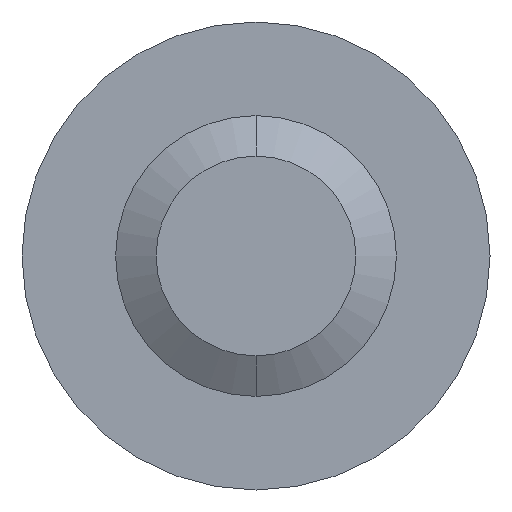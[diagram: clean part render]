
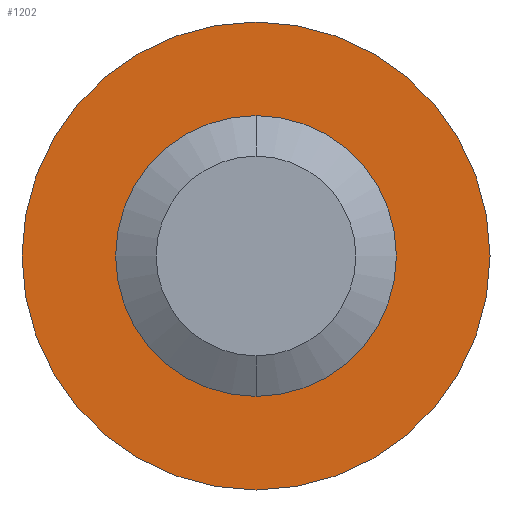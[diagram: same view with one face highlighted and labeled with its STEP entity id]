
A CAD part, front view. The second image highlights one B-rep face of the part: STEP entity #1202.
In plain terms, the highlighted planar face has unit normal (0, -1, 0).
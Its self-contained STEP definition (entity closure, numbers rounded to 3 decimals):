
#15 = CIRCLE ( 'NONE', #2303, 5. ) ;
#20 = EDGE_LOOP ( 'NONE', ( #1969, #241 ) ) ;
#107 = ORIENTED_EDGE ( 'NONE', *, *, #993, .F. ) ;
#122 = DIRECTION ( 'NONE',  ( 0., 0., 1. ) ) ;
#141 = DIRECTION ( 'NONE',  ( 0., 1., 0. ) ) ;
#237 = ORIENTED_EDGE ( 'NONE', *, *, #759, .F. ) ;
#241 = ORIENTED_EDGE ( 'NONE', *, *, #647, .T. ) ;
#286 = CIRCLE ( 'NONE', #2076, 5. ) ;
#480 = FACE_OUTER_BOUND ( 'NONE', #1293, .T. ) ;
#493 = DIRECTION ( 'NONE',  ( 0., 0., 1. ) ) ;
#647 = EDGE_CURVE ( 'NONE', #2728, #2524, #2483, .T. ) ;
#670 = PLANE ( 'NONE',  #1556 ) ;
#727 = CARTESIAN_POINT ( 'NONE',  ( 0., 20., -5. ) ) ;
#759 = EDGE_CURVE ( 'NONE', #2739, #1313, #286, .T. ) ;
#773 = CARTESIAN_POINT ( 'NONE',  ( 0., 20., 0. ) ) ;
#929 = CARTESIAN_POINT ( 'NONE',  ( 0., 20., 0. ) ) ;
#993 = EDGE_CURVE ( 'NONE', #1313, #2739, #15, .T. ) ;
#1008 = AXIS2_PLACEMENT_3D ( 'NONE', #929, #1788, #2642 ) ;
#1198 = CIRCLE ( 'NONE', #1008, 3. ) ;
#1202 = ADVANCED_FACE ( 'NONE', ( #480, #2412 ), #670, .F. ) ;
#1282 = DIRECTION ( 'NONE',  ( 0., 1., 0. ) ) ;
#1293 = EDGE_LOOP ( 'NONE', ( #107, #237 ) ) ;
#1307 = DIRECTION ( 'NONE',  ( 0., 0., 1. ) ) ;
#1312 = EDGE_CURVE ( 'NONE', #2524, #2728, #1198, .T. ) ;
#1313 = VERTEX_POINT ( 'NONE', #727 ) ;
#1385 = DIRECTION ( 'NONE',  ( 0., 1., 0. ) ) ;
#1523 = CARTESIAN_POINT ( 'NONE',  ( 0., 20., 0. ) ) ;
#1524 = CARTESIAN_POINT ( 'NONE',  ( 0., 20., 0. ) ) ;
#1549 = DIRECTION ( 'NONE',  ( 0., 1., 0. ) ) ;
#1550 = AXIS2_PLACEMENT_3D ( 'NONE', #773, #141, #122 ) ;
#1556 = AXIS2_PLACEMENT_3D ( 'NONE', #1523, #1549, #493 ) ;
#1741 = CARTESIAN_POINT ( 'NONE',  ( 0., 20., 3. ) ) ;
#1788 = DIRECTION ( 'NONE',  ( 0., 1., 0. ) ) ;
#1969 = ORIENTED_EDGE ( 'NONE', *, *, #1312, .T. ) ;
#2076 = AXIS2_PLACEMENT_3D ( 'NONE', #2248, #1385, #2660 ) ;
#2164 = CARTESIAN_POINT ( 'NONE',  ( 0., 20., 5. ) ) ;
#2248 = CARTESIAN_POINT ( 'NONE',  ( 0., 20., 0. ) ) ;
#2303 = AXIS2_PLACEMENT_3D ( 'NONE', #1524, #1282, #1307 ) ;
#2412 = FACE_BOUND ( 'NONE', #20, .T. ) ;
#2483 = CIRCLE ( 'NONE', #1550, 3. ) ;
#2524 = VERTEX_POINT ( 'NONE', #2656 ) ;
#2642 = DIRECTION ( 'NONE',  ( 0., 0., 1. ) ) ;
#2656 = CARTESIAN_POINT ( 'NONE',  ( 0., 20., -3. ) ) ;
#2660 = DIRECTION ( 'NONE',  ( 0., 0., 1. ) ) ;
#2728 = VERTEX_POINT ( 'NONE', #1741 ) ;
#2739 = VERTEX_POINT ( 'NONE', #2164 ) ;
